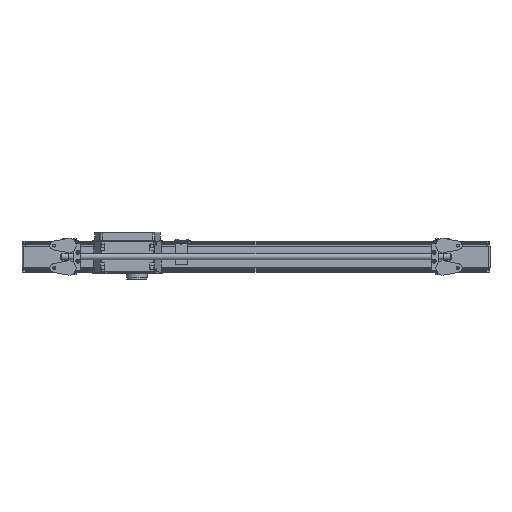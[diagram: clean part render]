
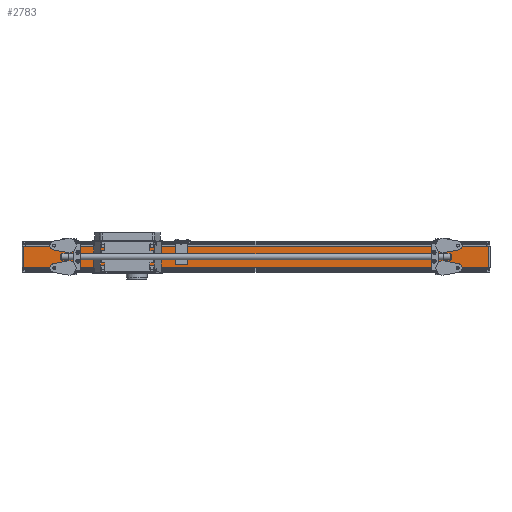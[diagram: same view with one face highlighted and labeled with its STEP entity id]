
A CAD part, front view. The second image highlights one B-rep face of the part: STEP entity #2783.
In plain terms, the highlighted planar face has unit normal (0, -1, 0).
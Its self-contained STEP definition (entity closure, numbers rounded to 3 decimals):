
#2783=ADVANCED_FACE('',(#13157),#13156,.F.);
#13156=PLANE('',#30220);
#13157=FACE_OUTER_BOUND('',#30221,.T.);
#30217=CARTESIAN_POINT('',(2004.,-12.2,-54.));
#30218=DIRECTION('',(0.,1.,0.));
#30219=DIRECTION('',(-1.,0.,0.));
#30220=AXIS2_PLACEMENT_3D('',#30217,#30218,#30219);
#30221=EDGE_LOOP('',(#42867,#42868,#42869,#42870));
#42867=ORIENTED_EDGE('',*,*,#50863,.T.);
#42868=ORIENTED_EDGE('',*,*,#50864,.F.);
#42869=ORIENTED_EDGE('',*,*,#50865,.F.);
#42870=ORIENTED_EDGE('',*,*,#50866,.T.);
#50863=EDGE_CURVE('',#69396,#69397,#69398,.T.);
#50864=EDGE_CURVE('',#69404,#69397,#69405,.T.);
#50865=EDGE_CURVE('',#69411,#69404,#69412,.T.);
#50866=EDGE_CURVE('',#69411,#69396,#69418,.T.);
#69396=VERTEX_POINT('',#97491);
#69397=VERTEX_POINT('',#97492);
#69398=LINE('',#97493,#97494);
#69404=VERTEX_POINT('',#97496);
#69405=LINE('',#97497,#97498);
#69411=VERTEX_POINT('',#97500);
#69412=LINE('',#97501,#97502);
#69418=LINE('',#97504,#97505);
#97491=CARTESIAN_POINT('',(6.,-12.2,-45.));
#97492=CARTESIAN_POINT('',(1994.,-12.2,-45.));
#97493=CARTESIAN_POINT('',(6.,-12.2,-45.));
#97494=VECTOR('',#97495,1988.);
#97495=DIRECTION('',(1.,0.,0.));
#97496=CARTESIAN_POINT('',(1994.,-12.2,45.));
#97497=CARTESIAN_POINT('',(1994.,-12.2,45.));
#97498=VECTOR('',#97499,90.);
#97499=DIRECTION('',(0.,0.,-1.));
#97500=CARTESIAN_POINT('',(6.,-12.2,45.));
#97501=CARTESIAN_POINT('',(6.,-12.2,45.));
#97502=VECTOR('',#97503,1988.);
#97503=DIRECTION('',(1.,0.,0.));
#97504=CARTESIAN_POINT('',(6.,-12.2,45.));
#97505=VECTOR('',#97506,90.);
#97506=DIRECTION('',(0.,0.,-1.));
